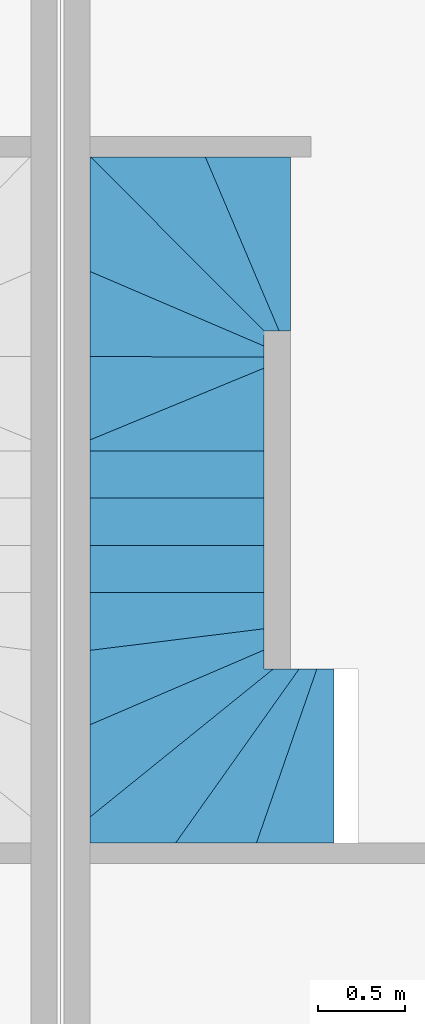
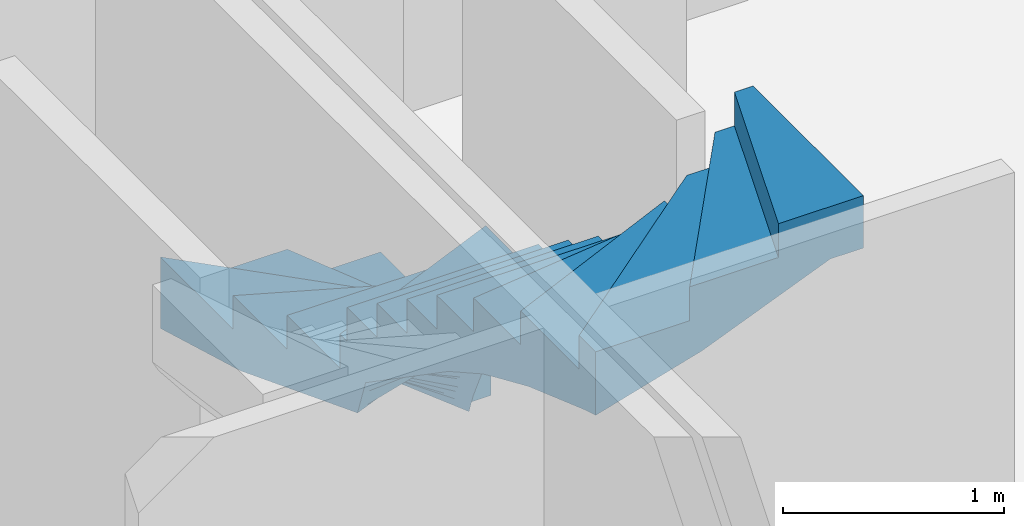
# One storey, part 6 of 8: 1 stair.
"""IFC2X3 building model written with IfcOpenShell, lengths in metres."""

from ifc_helpers import new_model, entity, si_unit, converted_unit, money_unit, direction, frame, origin_with_axes, place, context, subcontext, project, spatial, faceted_brep, source, transform, mapped, material, element, save


model = new_model("IFC2X3")

# Units and contexts
model_context = context("Model", 3, precision=1e-05, world=origin_with_axes(), true_north=direction((0.0, 1.0)))
body_context = subcontext(model_context, "Body", "Model", "MODEL_VIEW")
ifc_project = project(units=[si_unit("LENGTHUNIT", "METRE"), si_unit("AREAUNIT", "SQUARE_METRE"), si_unit("VOLUMEUNIT", "CUBIC_METRE"), converted_unit("PLANEANGLEUNIT", "DEGREE", entity("IfcPlaneAngleMeasure", 0.0174532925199), si_unit("PLANEANGLEUNIT", "RADIAN"), dimensions=[0, 0, 0, 0, 0, 0, 0]), si_unit("SOLIDANGLEUNIT", "STERADIAN"), money_unit("EUR"), si_unit("TIMEUNIT", "SECOND"), si_unit("MASSUNIT", "GRAM"), si_unit("THERMODYNAMICTEMPERATUREUNIT", "DEGREE_CELSIUS"), si_unit("LUMINOUSINTENSITYUNIT", "LUMEN")], contexts=[model_context])

# Site, building, storey
site_placement = place(None, origin_with_axes())
site = spatial("IfcSite", under=ifc_project, at=site_placement, Name="Gelände", CompositionType="ELEMENT")
building_placement = place(site_placement, origin_with_axes())
building = spatial("IfcBuilding", under=site, at=building_placement, Name="Gebäude", CompositionType="ELEMENT")
storey_placement = place(building_placement, origin_with_axes())
storey = spatial("IfcBuildingStorey", under=building, at=storey_placement, Name="Erdgeschoss", CompositionType="ELEMENT", Elevation=0.0)

# Stair
ifc_material = material(Name="Beton")
shared_shape = source(origin_with_axes(), body_context, "Body", "Brep", [
    faceted_brep([(0.0, 0.0, 0.0), (0.0, 0.0, 0.005), (-1.0, 0.0, 0.005), (-1.0, 0.0, 0.0), (0.0, 0.03966, 0.0), (0.0, 0.03966, 0.18667), (0.0, 0.0, 0.18667), (-1.0, 0.0, 0.18667), (-1.0, 0.0375, 0.18667), (-1.0, 0.0375, 0.0), (-1.0, 0.14947, 0.0), (0.0, 0.07931, 0.0), (0.0, 0.07931, 0.18667), (0.0, 0.11897, 0.18667), (0.0, 0.15862, 0.18667), (0.0, 0.19828, 0.18667), (0.0, 0.23793, 0.18667), (0.0, 0.27759, 0.18667), (0.0, 0.31724, 0.18667), (0.0, 0.3569, 0.18667), (0.0, 0.39655, 0.18667), (0.0, 0.43621, 0.18667), (0.0, 0.47586, 0.18667), (0.0, 0.48778, 0.18667), (-1.0, 0.06362, 0.18667), (-1.0, 0.06362, 0.0), (-1.0, 0.1125, 0.0), (0.0, 0.11897, 0.0), (0.0, 0.15862, 0.0), (0.0, 0.19828, 0.0), (0.0, 0.23793, 0.0), (0.0, 0.27759, 0.0), (0.0, 0.31724, 0.0), (0.0, 0.3569, 0.0), (0.0, 0.39655, 0.0), (0.0, 0.43621, 0.0), (0.0, 0.47586, 0.0), (0.0, 0.48778, 0.0), (0.0, 0.48778, 0.37333), (-1.0, 0.06362, 0.37333), (-1.0, 0.075, 0.37333), (-1.0, 0.075, 0.0), (-1.0, 0.1125, 0.37333), (-1.0, 0.14947, 0.37333), (-1.0613, 0.15, 0.0), (0.0, 0.51552, 0.0), (0.0, 0.51552, 0.37333), (0.0, 0.55517, 0.37333), (0.0, 0.5626, 0.37333), (0.0, 0.59483, 0.37333), (0.0, 0.63448, 0.37333), (0.0, 0.67414, 0.37333), (0.0, 0.71379, 0.37333), (0.0, 0.75345, 0.37333), (0.0, 0.7931, 0.37333), (0.0, 0.83276, 0.37333), (0.0, 0.87241, 0.37333), (0.0, 0.91207, 0.37333), (0.0, 0.95172, 0.37333), (0.0, 0.99138, 0.37333), (0.0, 1.03103, 0.37333), (0.0, 1.07069, 0.37333), (0.0, 1.11034, 0.37333), (0.0, 1.14594, 0.37333), (-1.0, 0.14947, 0.56), (-1.03959, 0.15, 0.56), (-1.03959, 0.15, 0.0), (0.0, 0.55517, 0.0), (0.0, 0.5626, 0.0), (0.0, 0.59483, 0.00912), (0.0, 0.63448, 0.02034), (0.0, 0.67414, 0.03155), (0.0, 0.71379, 0.04277), (0.0, 0.75345, 0.05399), (0.0, 0.7931, 0.06521), (0.0, 0.83276, 0.07643), (0.0, 0.87241, 0.08765), (0.0, 0.91207, 0.09887), (0.0, 0.95172, 0.11009), (0.0, 0.99138, 0.1213), (0.0, 1.03103, 0.13252), (0.0, 1.07069, 0.14374), (0.0, 1.11034, 0.15496), (0.0, 1.14594, 0.16503), (0.0, 1.14594, 0.56), (0.0, 1.15, 0.56), (-0.0398, 1.15, 0.56), (-0.0796, 1.15, 0.56), (-0.11939, 1.15, 0.56), (-0.15919, 1.15, 0.56), (-0.19899, 1.15, 0.56), (-0.23879, 1.15, 0.56), (-0.27859, 1.15, 0.56), (-0.31838, 1.15, 0.56), (-0.35818, 1.15, 0.56), (-0.39798, 1.15, 0.56), (-0.43778, 1.15, 0.56), (-0.47758, 1.15, 0.56), (-0.51737, 1.15, 0.56), (-0.55717, 1.15, 0.56), (-0.59697, 1.15, 0.56), (-0.63677, 1.15, 0.56), (-0.65732, 1.15, 0.56), (-1.08574, 0.15, 0.56), (-1.07918, 0.15, 0.56), (-1.0613, 0.15, 0.56), (-1.07918, 0.15, 0.05248), (-1.08574, 0.15, 0.0717), (-1.09962, 0.15, 0.11243), (-1.11878, 0.15, 0.15398), (0.0, 1.15, 0.16618), (-0.0398, 1.15, 0.17744), (-0.0796, 1.15, 0.1887), (-0.11939, 1.15, 0.19996), (-0.15919, 1.15, 0.21122), (-0.19899, 1.15, 0.22248), (-0.23879, 1.15, 0.23374), (-0.27859, 1.15, 0.245), (-0.31838, 1.15, 0.25625), (-0.35818, 1.15, 0.26751), (-0.39798, 1.15, 0.27877), (-0.43778, 1.15, 0.29003), (-0.47758, 1.15, 0.30129), (-0.51737, 1.15, 0.31255), (-0.55717, 1.15, 0.32381), (-0.59697, 1.15, 0.33507), (-0.63677, 1.15, 0.34633), (-0.65732, 1.15, 0.35214), (-0.65732, 1.15, 0.74667), (-1.08574, 0.15, 0.74667), (-1.14942, 0.15, 0.22044), (-1.15837, 0.15, 0.23985), (-1.19796, 0.15, 0.32571), (-1.21189, 0.15, 0.35593), (-0.67657, 1.15, 0.35759), (-0.67657, 1.15, 0.74667), (-0.71636, 1.15, 0.74667), (-0.72033, 1.15, 0.74667), (-0.75616, 1.15, 0.74667), (-0.79596, 1.15, 0.74667), (-0.83576, 1.15, 0.74667), (-0.87556, 1.15, 0.74667), (-0.91535, 1.15, 0.74667), (-0.95515, 1.15, 0.74667), (-0.99495, 1.15, 0.74667), (-1.03475, 1.15, 0.74667), (-1.07455, 1.15, 0.74667), (-1.11434, 1.15, 0.74667), (-1.14554, 1.15, 0.74667), (-1.14942, 0.15, 0.74667), (-1.11878, 0.15, 0.74667), (-1.09962, 0.15, 0.74667), (-0.71636, 1.15, 0.36885), (-0.72033, 1.15, 0.36997), (-0.75616, 1.15, 0.38381), (-0.79596, 1.15, 0.39918), (-0.83576, 1.15, 0.41456), (-0.87556, 1.15, 0.42993), (-0.91535, 1.15, 0.4453), (-0.95515, 1.15, 0.46067), (-0.99495, 1.15, 0.47605), (-1.03475, 1.15, 0.49142), (-1.07455, 1.15, 0.50679), (-1.11434, 1.15, 0.52217), (-1.14554, 1.15, 0.53422), (-1.14554, 1.15, 0.93333), (-1.14942, 0.15, 0.93333), (-1.15837, 0.15, 0.93333), (-1.19796, 0.15, 0.93333), (-1.21189, 0.15, 0.93333), (-1.23755, 0.15, 0.41158), (-1.27166, 0.15, 0.48556), (-1.27714, 0.15, 0.50173), (-1.15414, 1.15, 0.53754), (-1.15414, 1.15, 0.93333), (-1.19394, 1.15, 0.93333), (-1.23374, 1.15, 0.93333), (-1.27354, 1.15, 0.93333), (-1.31333, 1.15, 0.93333), (-1.35313, 1.15, 0.93333), (-1.39293, 1.15, 0.93333), (-1.43273, 1.15, 0.93333), (-1.47253, 1.15, 0.93333), (-1.51232, 1.15, 0.93333), (-1.55212, 1.15, 0.93333), (-1.59192, 1.15, 0.93333), (-1.62451, 1.15, 0.93333), (-1.21189, 0.15, 1.12), (-1.23755, 0.15, 1.12), (-1.19394, 1.15, 0.55291), (-1.23374, 1.15, 0.56829), (-1.27354, 1.15, 0.58366), (-1.31333, 1.15, 0.59903), (-1.35313, 1.15, 0.6144), (-1.39293, 1.15, 0.62978), (-1.43273, 1.15, 0.64515), (-1.47253, 1.15, 0.66052), (-1.51232, 1.15, 0.6759), (-1.55212, 1.15, 0.69127), (-1.59192, 1.15, 0.70664), (-1.62451, 1.15, 0.71923), (-1.62451, 1.15, 1.12), (-1.63172, 1.15, 1.12), (-1.67152, 1.15, 1.12), (-1.68892, 1.15, 1.12), (-1.68892, 0.15, 1.12), (-1.67306, 0.15, 1.12), (-1.63347, 0.15, 1.12), (-1.59388, 0.15, 1.12), (-1.55429, 0.15, 1.12), (-1.51469, 0.15, 1.12), (-1.4751, 0.15, 1.12), (-1.43551, 0.15, 1.12), (-1.39592, 0.15, 1.12), (-1.37187, 0.15, 1.12), (-1.35633, 0.15, 1.12), (-1.31673, 0.15, 1.12), (-1.27714, 0.15, 1.12), (-1.27166, 0.15, 1.12), (-1.31673, 0.15, 0.61852), (-1.35633, 0.15, 0.73532), (-1.63172, 1.15, 0.72201), (-1.67152, 1.15, 0.73739), (-1.68892, 1.15, 0.74411), (-1.68892, 1.15, 1.30667), (-1.68892, 0.15, 1.30667), (-1.67306, 0.15, 0.89903), (-1.68892, 0.15, 0.90523), (-1.63347, 0.15, 0.88353), (-1.59388, 0.15, 0.86804), (-1.55429, 0.15, 0.85255), (-1.51469, 0.15, 0.83706), (-1.4751, 0.15, 0.82156), (-1.43551, 0.15, 0.80607), (-1.39592, 0.15, 0.79058), (-1.37187, 0.15, 0.78117), (-1.71131, 1.15, 0.75276), (-1.71131, 1.15, 1.30667), (-1.75111, 1.15, 1.30667), (-1.78338, 1.15, 1.30667), (-1.79091, 1.15, 1.30667), (-1.83071, 1.15, 1.30667), (-1.85655, 1.15, 1.30667), (-1.87051, 1.15, 1.30667), (-1.9103, 1.15, 1.30667), (-1.9501, 1.15, 1.30667), (-1.95964, 1.15, 1.30667), (-1.95964, 0.15, 1.30667), (-1.9502, 0.15, 1.30667), (-1.91061, 0.15, 1.30667), (-1.87102, 0.15, 1.30667), (-1.83143, 0.15, 1.30667), (-1.79184, 0.15, 1.30667), (-1.78338, 0.15, 1.30667), (-1.75224, 0.15, 1.30667), (-1.71265, 0.15, 1.30667), (-1.71265, 0.15, 0.91452), (-1.83071, 1.15, 0.91776), (-1.79091, 1.15, 0.80242), (-1.78338, 1.15, 0.7806), (-1.75111, 1.15, 0.76813), (-1.85655, 1.15, 0.99265), (-1.87051, 1.15, 1.00227), (-1.9103, 1.15, 1.02971), (-1.9501, 1.15, 1.05715), (-1.95964, 1.15, 1.06373), (-1.95964, 1.15, 1.49333), (-1.95964, 0.15, 1.49333), (-1.9502, 0.15, 1.05723), (-1.95964, 0.15, 1.06373), (-1.91061, 0.15, 1.02993), (-1.87102, 0.15, 1.00263), (-1.83143, 0.15, 0.97533), (-1.79184, 0.15, 0.94803), (-1.78338, 0.15, 0.94219), (-1.75224, 0.15, 0.93001), (-1.9899, 1.15, 1.0846), (-1.9899, 1.15, 1.49333), (-2.0297, 1.15, 1.49333), (-2.06949, 1.15, 1.49333), (-2.10929, 1.15, 1.49333), (-2.14909, 1.15, 1.49333), (-2.18889, 1.15, 1.49333), (-2.22869, 1.15, 1.49333), (-2.23036, 1.15, 1.49333), (-2.23036, 0.15, 1.49333), (-2.22735, 0.15, 1.49333), (-2.18776, 0.15, 1.49333), (-2.14816, 0.15, 1.49333), (-2.10857, 0.15, 1.49333), (-2.06898, 0.15, 1.49333), (-2.02939, 0.15, 1.49333), (-1.9898, 0.15, 1.49333), (-1.9898, 0.15, 1.08452), (-2.0297, 1.15, 1.11204), (-2.06949, 1.15, 1.13948), (-2.10929, 1.15, 1.16692), (-2.14909, 1.15, 1.19436), (-2.18889, 1.15, 1.2218), (-2.22869, 1.15, 1.24924), (-2.23036, 1.15, 1.2504), (-2.23036, 1.15, 1.68), (-2.23036, 0.15, 1.68), (-2.22735, 0.15, 1.24832), (-2.23036, 0.15, 1.2504), (-2.18776, 0.15, 1.22102), (-2.14816, 0.15, 1.19372), (-2.10857, 0.15, 1.16642), (-2.06898, 0.15, 1.13912), (-2.02939, 0.15, 1.11182), (-2.26848, 1.15, 1.27669), (-2.26848, 1.15, 1.68), (-2.30828, 1.15, 1.68), (-2.34808, 1.15, 1.68), (-2.38788, 1.15, 1.68), (-2.42768, 1.15, 1.68), (-2.46747, 1.15, 1.68), (-2.50108, 1.15, 1.68), (-2.50108, 0.15, 1.68), (-2.4649, 0.15, 1.68), (-2.42531, 0.15, 1.68), (-2.38571, 0.15, 1.68), (-2.34612, 0.15, 1.68), (-2.30653, 0.15, 1.68), (-2.26694, 0.15, 1.68), (-2.26694, 0.15, 1.27562), (-2.30828, 1.15, 1.30413), (-2.34808, 1.15, 1.33157), (-2.38788, 1.15, 1.35901), (-2.42768, 1.15, 1.38645), (-2.46747, 1.15, 1.41389), (-2.50108, 1.15, 1.43706), (-2.50108, 1.15, 1.86667), (-2.50108, 0.15, 1.86667), (-2.4649, 0.15, 1.41212), (-2.50108, 0.15, 1.43706), (-2.42531, 0.15, 1.38482), (-2.38571, 0.15, 1.35752), (-2.34612, 0.15, 1.33022), (-2.30653, 0.15, 1.30292), (-2.50727, 1.15, 1.44134), (-2.50727, 1.15, 1.86667), (-2.54707, 1.15, 1.86667), (-2.58687, 1.15, 1.86667), (-2.60699, 1.15, 1.86667), (-2.62667, 1.15, 1.86667), (-2.66646, 1.15, 1.86667), (-2.70626, 1.15, 1.86667), (-2.74606, 1.15, 1.86667), (-2.78586, 1.15, 1.86667), (-2.82566, 1.15, 1.86667), (-2.83391, 1.15, 1.86667), (-2.70969, 0.15, 1.86667), (-2.70245, 0.15, 1.86667), (-2.66286, 0.15, 1.86667), (-2.62502, 0.15, 1.86667), (-2.62327, 0.15, 1.86667), (-2.58367, 0.15, 1.86667), (-2.54408, 0.15, 1.86667), (-2.50449, 0.15, 1.86667), (-2.50449, 0.15, 1.43942), (-2.54707, 1.15, 1.46878), (-2.58687, 1.15, 1.49622), (-2.60699, 1.15, 1.51009), (-2.62667, 1.15, 1.52113), (-2.66646, 1.15, 1.54345), (-2.70626, 1.15, 1.56577), (-2.74606, 1.15, 1.58809), (-2.78586, 1.15, 1.61041), (-2.82566, 1.15, 1.63273), (-2.83391, 1.15, 1.63736), (-2.83391, 1.15, 2.05333), (-2.70969, 0.15, 2.05333), (-2.70245, 0.15, 1.59181), (-2.70969, 0.15, 1.59829), (-2.66286, 0.15, 1.55638), (-2.62502, 0.15, 1.52253), (-2.62327, 0.15, 1.52131), (-2.58367, 0.15, 1.49401), (-2.54408, 0.15, 1.46672), (-2.74204, 0.15, 1.62724), (-2.86545, 1.15, 1.65505), (-2.86545, 1.15, 2.05333), (-2.90525, 1.15, 2.05333), (-2.9231, 1.15, 2.05333), (-2.94505, 1.15, 2.05333), (-2.98485, 1.15, 2.05333), (-3.02465, 1.15, 2.05333), (-3.06444, 1.15, 2.05333), (-3.10424, 1.15, 2.05333), (-3.14404, 1.15, 2.05333), (-3.18384, 1.15, 2.05333), (-3.22364, 1.15, 2.05333), (-3.26091, 1.15, 2.05333), (-2.83169, 0.15, 2.05333), (-2.82122, 0.15, 2.05333), (-2.78163, 0.15, 2.05333), (-2.74204, 0.15, 2.05333), (-2.78163, 0.15, 1.66266), (-2.90525, 1.15, 1.67737), (-2.9231, 1.15, 1.68738), (-2.94505, 1.15, 1.69698), (-2.98485, 1.15, 1.71438), (-3.02465, 1.15, 1.73177), (-3.06444, 1.15, 1.74917), (-3.10424, 1.15, 1.76657), (-3.14404, 1.15, 1.78397), (-3.18384, 1.15, 1.80137), (-3.22364, 1.15, 1.81876), (-3.26091, 1.15, 1.83506), (-3.26091, 1.15, 2.24), (-2.83169, 0.15, 2.24), (-2.82122, 0.15, 1.69809), (-2.83169, 0.15, 1.70745), (-2.86082, 0.15, 1.73352), (-2.86269, 0.15, 1.73519), (-2.90041, 0.15, 1.79291), (-2.94, 0.15, 1.85348), (-3.26343, 1.15, 1.83616), (-3.26343, 1.15, 2.24), (-3.30323, 1.15, 2.24), (-3.33429, 1.15, 2.24), (-3.34303, 1.15, 2.24), (-3.38283, 1.15, 2.24), (-3.42263, 1.15, 2.24), (-3.46242, 1.15, 2.24), (-3.50222, 1.15, 2.24), (-3.54202, 1.15, 2.24), (-3.58182, 1.15, 2.24), (-3.62162, 1.15, 2.24), (-3.66141, 1.15, 2.24), (-3.70121, 1.15, 2.24), (-3.74101, 1.15, 2.24), (-3.78081, 1.15, 2.24), (-3.79076, 1.15, 2.24), (-2.94, 0.09667, 2.24), (-2.94, 0.09828, 2.24), (-2.94, 0.11364, 2.24), (-2.94, 0.15, 2.24), (-2.90041, 0.15, 2.24), (-2.86269, 0.15, 2.24), (-2.86082, 0.15, 2.24), (-3.30323, 1.15, 1.85356), (-3.33429, 1.15, 1.86714), (-3.34303, 1.15, 1.87022), (-3.38283, 1.15, 1.88424), (-3.42263, 1.15, 1.89826), (-3.46242, 1.15, 1.91228), (-3.50222, 1.15, 1.9263), (-3.54202, 1.15, 1.94032), (-3.58182, 1.15, 1.95434), (-3.62162, 1.15, 1.96836), (-3.66141, 1.15, 1.98238), (-3.70121, 1.15, 1.9964), (-3.74101, 1.15, 2.01042), (-3.78081, 1.15, 2.02445), (-3.79076, 1.15, 2.02795), (-3.79076, 1.15, 2.42667), (-2.94, 0.09667, 2.42667), (-2.94, 0.09828, 1.93262), (-2.94, 0.09667, 1.93448), (-2.94, 0.11364, 1.90912), (-2.94, 0.07727, 1.95688), (-2.94, 0.04091, 1.99887), (-2.94, 0.00455, 2.04086), (-3.82061, 1.15, 2.03847), (-3.82061, 1.15, 2.42667), (-3.85201, 1.15, 2.42667), (-3.8604, 1.15, 2.42667), (-3.9002, 1.15, 2.42667), (-3.94, 1.15, 2.42667), (-3.94, 1.11111, 2.42667), (-3.94, 1.07222, 2.42667), (-3.94, 1.03333, 2.42667), (-3.94, 0.99444, 2.42667), (-3.94, 0.95556, 2.42667), (-3.94, 0.91667, 2.42667), (-3.94, 0.87778, 2.42667), (-3.94, 0.83889, 2.42667), (-3.94, 0.8, 2.42667), (-3.94, 0.76111, 2.42667), (-3.94, 0.72222, 2.42667), (-3.94, 0.68333, 2.42667), (-3.94, 0.65858, 2.42667), (-2.94, -0.05125, 2.42667), (-2.94, -0.03182, 2.42667), (-2.94, 0.00455, 2.42667), (-2.94, 0.04091, 2.42667), (-2.94, 0.07727, 2.42667), (-3.85201, 1.15, 2.04953), (-3.8604, 1.15, 2.05198), (-3.9002, 1.15, 2.06357), (-3.94, 1.15, 2.07517), (-3.94, 1.11111, 2.0865), (-3.94, 1.07222, 2.09783), (-3.94, 1.03333, 2.10916), (-3.94, 0.99444, 2.12049), (-3.94, 0.95556, 2.13182), (-3.94, 0.91667, 2.14315), (-3.94, 0.87778, 2.15448), (-3.94, 0.83889, 2.16581), (-3.94, 0.8, 2.17715), (-3.94, 0.76111, 2.18848), (-3.94, 0.72222, 2.19981), (-3.94, 0.68333, 2.21114), (-3.94, 0.65858, 2.21835), (-3.94, 0.65858, 2.61333), (-2.94, -0.05125, 2.61333), (-2.94, -0.03182, 2.08286), (-2.94, -0.05125, 2.1053), (-2.94, -0.05738, 2.11237), (-2.94, -0.06818, 2.12601), (-2.94, -0.10455, 2.1719), (-2.94, -0.14091, 2.21779), (-3.94, 0.64444, 2.22247), (-3.94, 0.64444, 2.61333), (-3.94, 0.60556, 2.61333), (-3.94, 0.59315, 2.61333), (-3.94, 0.56667, 2.61333), (-3.94, 0.52778, 2.61333), (-3.94, 0.48889, 2.61333), (-3.94, 0.45, 2.61333), (-3.94, 0.41111, 2.61333), (-3.94, 0.37222, 2.61333), (-3.94, 0.33333, 2.61333), (-3.94, 0.29444, 2.61333), (-3.94, 0.25556, 2.61333), (-3.94, 0.21667, 2.61333), (-3.94, 0.19426, 2.61333), (-2.94, -0.15282, 2.61333), (-2.94, -0.14091, 2.61333), (-2.94, -0.10455, 2.61333), (-2.94, -0.06818, 2.61333), (-2.94, -0.05738, 2.61333), (-3.94, 0.60556, 2.2338), (-3.94, 0.59315, 2.23742), (-3.94, 0.56667, 2.2482), (-3.94, 0.52778, 2.26404), (-3.94, 0.48889, 2.27988), (-3.94, 0.45, 2.29572), (-3.94, 0.41111, 2.31156), (-3.94, 0.37222, 2.3274), (-3.94, 0.33333, 2.34324), (-3.94, 0.29444, 2.35907), (-3.94, 0.25556, 2.37491), (-3.94, 0.21667, 2.39075), (-3.94, 0.19426, 2.39988), (-3.94, 0.19426, 2.8), (-2.94, -0.15282, 2.8), (-2.94, -0.15282, 2.23282), (-2.94, -0.17727, 2.26368), (-2.94, -0.21364, 2.30957), (-2.94, -0.21869, 2.31595), (-2.94, -0.25, 2.37348), (-3.94, 0.17778, 2.40659), (-3.94, 0.17778, 2.8), (-3.94, 0.13889, 2.8), (-3.94, 0.1, 2.8), (-3.94, 0.06111, 2.8), (-3.94, 0.02222, 2.8), (-3.94, -0.01667, 2.8), (-3.94, -0.05556, 2.8), (-3.94, -0.07611, 2.8), (-3.94, -0.09444, 2.8), (-3.94, -0.13333, 2.8), (-3.94, -0.17222, 2.8), (-3.94, -0.21111, 2.8), (-3.94, -0.25, 2.8), (-2.94, -0.25, 2.8), (-2.94, -0.21869, 2.8), (-2.94, -0.21364, 2.8), (-2.94, -0.17727, 2.8), (-3.94, 0.13889, 2.42243), (-3.94, 0.1, 2.43827), (-3.94, 0.06111, 2.45411), (-3.94, 0.02222, 2.46995), (-3.94, -0.01667, 2.48579), (-3.94, -0.05556, 2.50163), (-3.94, -0.07611, 2.51), (-3.94, -0.09444, 2.51), (-3.94, -0.13333, 2.51), (-3.94, -0.17222, 2.51), (-3.94, -0.21111, 2.51), (-3.94, -0.25, 2.51)], [[[0, 1, 2, 3]], [[0, 4, 5, 6, 1]], [[1, 6, 7, 2]], [[3, 2, 7, 8, 9]], [[3, 9, 0]], [[10, 4, 0]], [[4, 11, 12, 5]], [[6, 5, 12, 13, 14, 15, 16, 17, 18, 19, 20, 21, 22, 23, 24, 8, 7]], [[9, 8, 24, 25]], [[9, 25, 0]], [[10, 11, 4]], [[26, 10, 0]], [[11, 27, 13, 12]], [[27, 28, 14, 13]], [[28, 29, 15, 14]], [[29, 30, 16, 15]], [[30, 31, 17, 16]], [[31, 32, 18, 17]], [[32, 33, 19, 18]], [[33, 34, 20, 19]], [[34, 35, 21, 20]], [[35, 36, 22, 21]], [[36, 37, 23, 22]], [[23, 38, 39, 24]], [[25, 24, 39, 40, 41]], [[25, 41, 0]], [[10, 27, 11]], [[26, 42, 43, 10]], [[41, 26, 0]], [[10, 28, 27]], [[44, 29, 28]], [[44, 30, 29]], [[44, 31, 30]], [[44, 32, 31]], [[44, 33, 32]], [[44, 34, 33]], [[44, 35, 34]], [[44, 36, 35]], [[44, 37, 36]], [[37, 45, 46, 38, 23]], [[38, 46, 47, 48, 49, 50, 51, 52, 53, 54, 55, 56, 57, 58, 59, 60, 61, 62, 63, 43, 42, 40, 39]], [[41, 40, 42, 26]], [[10, 43, 64, 65, 66]], [[10, 66, 28]], [[66, 44, 28]], [[44, 45, 37]], [[45, 67, 47, 46]], [[67, 68, 48, 47]], [[68, 69, 49, 48]], [[69, 70, 50, 49]], [[70, 71, 51, 50]], [[71, 72, 52, 51]], [[72, 73, 53, 52]], [[73, 74, 54, 53]], [[74, 75, 55, 54]], [[75, 76, 56, 55]], [[76, 77, 57, 56]], [[77, 78, 58, 57]], [[78, 79, 59, 58]], [[79, 80, 60, 59]], [[80, 81, 61, 60]], [[81, 82, 62, 61]], [[82, 83, 63, 62]], [[63, 84, 64, 43]], [[84, 85, 86, 87, 88, 89, 90, 91, 92, 93, 94, 95, 96, 97, 98, 99, 100, 101, 102, 103, 104, 105, 65, 64]], [[66, 65, 105, 44]], [[44, 67, 45]], [[44, 68, 67]], [[44, 69, 68]], [[44, 70, 69]], [[44, 71, 70]], [[106, 72, 71]], [[106, 73, 72]], [[106, 74, 73]], [[107, 75, 74]], [[107, 76, 75]], [[108, 77, 76]], [[108, 78, 77]], [[108, 79, 78]], [[108, 80, 79]], [[109, 81, 80]], [[109, 82, 81]], [[109, 83, 82]], [[83, 110, 85, 84, 63]], [[110, 111, 86, 85]], [[111, 112, 87, 86]], [[112, 113, 88, 87]], [[113, 114, 89, 88]], [[114, 115, 90, 89]], [[115, 116, 91, 90]], [[116, 117, 92, 91]], [[117, 118, 93, 92]], [[118, 119, 94, 93]], [[119, 120, 95, 94]], [[120, 121, 96, 95]], [[121, 122, 97, 96]], [[122, 123, 98, 97]], [[123, 124, 99, 98]], [[124, 125, 100, 99]], [[125, 126, 101, 100]], [[126, 127, 102, 101]], [[102, 128, 129, 103]], [[106, 104, 103, 107]], [[44, 105, 104, 106]], [[44, 106, 71]], [[106, 107, 74]], [[107, 108, 76]], [[108, 109, 80]], [[109, 110, 83]], [[109, 111, 110]], [[109, 112, 111]], [[130, 113, 112]], [[130, 114, 113]], [[130, 115, 114]], [[130, 116, 115]], [[131, 117, 116]], [[131, 118, 117]], [[131, 119, 118]], [[131, 120, 119]], [[132, 121, 120]], [[132, 122, 121]], [[132, 123, 122]], [[132, 124, 123]], [[132, 125, 124]], [[132, 126, 125]], [[133, 127, 126]], [[127, 134, 135, 128, 102]], [[128, 135, 136, 137, 138, 139, 140, 141, 142, 143, 144, 145, 146, 147, 148, 149, 150, 151, 129]], [[107, 103, 129, 151, 108]], [[108, 151, 150, 109]], [[109, 130, 112]], [[130, 131, 116]], [[131, 132, 120]], [[132, 133, 126]], [[133, 134, 127]], [[134, 152, 136, 135]], [[152, 153, 137, 136]], [[153, 154, 138, 137]], [[154, 155, 139, 138]], [[155, 156, 140, 139]], [[156, 157, 141, 140]], [[157, 158, 142, 141]], [[158, 159, 143, 142]], [[159, 160, 144, 143]], [[160, 161, 145, 144]], [[161, 162, 146, 145]], [[162, 163, 147, 146]], [[163, 164, 148, 147]], [[148, 165, 166, 149]], [[109, 150, 149, 130]], [[130, 149, 166, 167, 131]], [[131, 167, 168, 132]], [[132, 168, 169, 133]], [[133, 152, 134]], [[133, 153, 152]], [[133, 154, 153]], [[170, 155, 154]], [[170, 156, 155]], [[170, 157, 156]], [[170, 158, 157]], [[171, 159, 158]], [[171, 160, 159]], [[171, 161, 160]], [[172, 162, 161]], [[172, 163, 162]], [[172, 164, 163]], [[164, 173, 174, 165, 148]], [[165, 174, 175, 176, 177, 178, 179, 180, 181, 182, 183, 184, 185, 186, 169, 168, 167, 166]], [[133, 169, 187, 188, 170]], [[133, 170, 154]], [[170, 171, 158]], [[171, 172, 161]], [[172, 173, 164]], [[173, 189, 175, 174]], [[189, 190, 176, 175]], [[190, 191, 177, 176]], [[191, 192, 178, 177]], [[192, 193, 179, 178]], [[193, 194, 180, 179]], [[194, 195, 181, 180]], [[195, 196, 182, 181]], [[196, 197, 183, 182]], [[197, 198, 184, 183]], [[198, 199, 185, 184]], [[199, 200, 186, 185]], [[186, 201, 187, 169]], [[201, 202, 203, 204, 205, 206, 207, 208, 209, 210, 211, 212, 213, 214, 215, 216, 217, 218, 188, 187]], [[170, 188, 218, 171]], [[171, 218, 217, 172]], [[172, 189, 173]], [[219, 190, 189]], [[219, 191, 190]], [[219, 192, 191]], [[219, 193, 192]], [[219, 194, 193]], [[219, 195, 194]], [[219, 196, 195]], [[219, 197, 196]], [[220, 198, 197]], [[220, 199, 198]], [[220, 200, 199]], [[200, 221, 202, 201, 186]], [[221, 222, 203, 202]], [[222, 223, 204, 203]], [[204, 224, 225, 205]], [[226, 206, 205, 227]], [[228, 207, 206, 226]], [[229, 208, 207, 228]], [[230, 209, 208, 229]], [[231, 210, 209, 230]], [[232, 211, 210, 231]], [[233, 212, 211, 232]], [[234, 213, 212, 233]], [[235, 214, 213, 234]], [[220, 215, 214, 235]], [[219, 216, 215, 220]], [[172, 217, 216, 219]], [[172, 219, 189]], [[219, 220, 197]], [[220, 221, 200]], [[220, 222, 221]], [[220, 223, 222]], [[223, 236, 237, 224, 204]], [[224, 237, 238, 239, 240, 241, 242, 243, 244, 245, 246, 247, 248, 249, 250, 251, 252, 253, 254, 255, 225]], [[227, 205, 225, 255, 256]], [[226, 227, 257]], [[228, 226, 257]], [[229, 228, 257]], [[230, 229, 257]], [[231, 230, 258]], [[232, 231, 258]], [[233, 232, 258]], [[234, 233, 258]], [[235, 234, 259]], [[220, 235, 236]], [[220, 236, 223]], [[236, 260, 238, 237]], [[260, 259, 239, 238]], [[259, 258, 240, 239]], [[258, 257, 241, 240]], [[257, 261, 242, 241]], [[261, 262, 243, 242]], [[262, 263, 244, 243]], [[263, 264, 245, 244]], [[264, 265, 246, 245]], [[246, 266, 267, 247]], [[268, 248, 247, 269]], [[270, 249, 248, 268]], [[271, 250, 249, 270]], [[272, 251, 250, 271]], [[273, 252, 251, 272]], [[274, 253, 252, 273]], [[275, 254, 253, 274]], [[256, 255, 254, 275]], [[227, 256, 257]], [[230, 257, 258]], [[234, 258, 259]], [[235, 259, 260]], [[235, 260, 236]], [[273, 261, 257]], [[271, 262, 261]], [[271, 263, 262]], [[270, 264, 263]], [[268, 265, 264]], [[265, 276, 277, 266, 246]], [[266, 277, 278, 279, 280, 281, 282, 283, 284, 285, 286, 287, 288, 289, 290, 291, 292, 267]], [[269, 247, 267, 292, 293]], [[268, 269, 265]], [[270, 268, 264]], [[271, 270, 263]], [[272, 271, 261]], [[273, 272, 261]], [[274, 273, 257]], [[275, 274, 257]], [[256, 275, 257]], [[293, 276, 265]], [[276, 294, 278, 277]], [[294, 295, 279, 278]], [[295, 296, 280, 279]], [[296, 297, 281, 280]], [[297, 298, 282, 281]], [[298, 299, 283, 282]], [[299, 300, 284, 283]], [[284, 301, 302, 285]], [[303, 286, 285, 304]], [[305, 287, 286, 303]], [[306, 288, 287, 305]], [[307, 289, 288, 306]], [[308, 290, 289, 307]], [[309, 291, 290, 308]], [[293, 292, 291, 309]], [[269, 293, 265]], [[293, 309, 276]], [[309, 294, 276]], [[308, 295, 294]], [[307, 296, 295]], [[306, 297, 296]], [[305, 298, 297]], [[303, 299, 298]], [[304, 300, 299]], [[300, 310, 311, 301, 284]], [[301, 311, 312, 313, 314, 315, 316, 317, 318, 319, 320, 321, 322, 323, 324, 302]], [[304, 285, 302, 324, 325]], [[303, 304, 299]], [[305, 303, 298]], [[306, 305, 297]], [[307, 306, 296]], [[308, 307, 295]], [[309, 308, 294]], [[304, 325, 300]], [[325, 310, 300]], [[310, 326, 312, 311]], [[326, 327, 313, 312]], [[327, 328, 314, 313]], [[328, 329, 315, 314]], [[329, 330, 316, 315]], [[330, 331, 317, 316]], [[317, 332, 333, 318]], [[334, 319, 318, 335]], [[336, 320, 319, 334]], [[337, 321, 320, 336]], [[338, 322, 321, 337]], [[339, 323, 322, 338]], [[325, 324, 323, 339]], [[325, 339, 310]], [[339, 326, 310]], [[338, 327, 326]], [[337, 328, 327]], [[336, 329, 328]], [[334, 330, 329]], [[335, 331, 330]], [[331, 340, 341, 332, 317]], [[332, 341, 342, 343, 344, 345, 346, 347, 348, 349, 350, 351, 352, 353, 354, 355, 356, 357, 358, 359, 333]], [[335, 318, 333, 359, 360]], [[334, 335, 330]], [[336, 334, 329]], [[337, 336, 328]], [[338, 337, 327]], [[339, 338, 326]], [[335, 360, 331]], [[360, 340, 331]], [[340, 361, 342, 341]], [[361, 362, 343, 342]], [[362, 363, 344, 343]], [[363, 364, 345, 344]], [[364, 365, 346, 345]], [[365, 366, 347, 346]], [[366, 367, 348, 347]], [[367, 368, 349, 348]], [[368, 369, 350, 349]], [[369, 370, 351, 350]], [[351, 371, 372, 352]], [[373, 353, 352, 374]], [[375, 354, 353, 373]], [[376, 355, 354, 375]], [[377, 356, 355, 376]], [[378, 357, 356, 377]], [[379, 358, 357, 378]], [[360, 359, 358, 379]], [[360, 379, 340]], [[379, 361, 340]], [[378, 362, 361]], [[378, 363, 362]], [[377, 364, 363]], [[376, 365, 364]], [[375, 366, 365]], [[373, 367, 366]], [[374, 368, 367]], [[380, 369, 368]], [[380, 370, 369]], [[370, 381, 382, 371, 351]], [[371, 382, 383, 384, 385, 386, 387, 388, 389, 390, 391, 392, 393, 394, 395, 396, 397, 372]], [[374, 352, 372, 397, 380]], [[373, 374, 367]], [[375, 373, 366]], [[376, 375, 365]], [[377, 376, 364]], [[378, 377, 363]], [[379, 378, 361]], [[374, 380, 368]], [[380, 398, 370]], [[398, 381, 370]], [[381, 399, 383, 382]], [[399, 400, 384, 383]], [[400, 401, 385, 384]], [[401, 402, 386, 385]], [[402, 403, 387, 386]], [[403, 404, 388, 387]], [[404, 405, 389, 388]], [[405, 406, 390, 389]], [[406, 407, 391, 390]], [[407, 408, 392, 391]], [[408, 409, 393, 392]], [[393, 410, 411, 394]], [[412, 395, 394, 413]], [[398, 396, 395, 412]], [[380, 397, 396, 398]], [[398, 399, 381]], [[412, 400, 399]], [[412, 401, 400]], [[413, 402, 401]], [[414, 403, 402]], [[415, 404, 403]], [[415, 405, 404]], [[416, 406, 405]], [[416, 407, 406]], [[416, 408, 407]], [[417, 409, 408]], [[409, 418, 419, 410, 393]], [[410, 419, 420, 421, 422, 423, 424, 425, 426, 427, 428, 429, 430, 431, 432, 433, 434, 435, 436, 437, 438, 439, 440, 441, 411]], [[413, 394, 411, 441, 414]], [[412, 413, 401]], [[398, 412, 399]], [[413, 414, 402]], [[414, 415, 403]], [[415, 416, 405]], [[416, 417, 408]], [[417, 418, 409]], [[418, 442, 420, 419]], [[442, 443, 421, 420]], [[443, 444, 422, 421]], [[444, 445, 423, 422]], [[445, 446, 424, 423]], [[446, 447, 425, 424]], [[447, 448, 426, 425]], [[448, 449, 427, 426]], [[449, 450, 428, 427]], [[450, 451, 429, 428]], [[451, 452, 430, 429]], [[452, 453, 431, 430]], [[453, 454, 432, 431]], [[454, 455, 433, 432]], [[455, 456, 434, 433]], [[434, 457, 458, 435]], [[459, 436, 435, 460]], [[461, 437, 436, 459]], [[417, 438, 437, 461]], [[416, 439, 438, 417]], [[415, 440, 439, 416]], [[414, 441, 440, 415]], [[417, 442, 418]], [[417, 443, 442]], [[417, 444, 443]], [[417, 445, 444]], [[461, 446, 445]], [[461, 447, 446]], [[461, 448, 447]], [[459, 449, 448]], [[462, 450, 449]], [[462, 451, 450]], [[462, 452, 451]], [[463, 453, 452]], [[463, 454, 453]], [[463, 455, 454]], [[464, 456, 455]], [[456, 465, 466, 457, 434]], [[457, 466, 467, 468, 469, 470, 471, 472, 473, 474, 475, 476, 477, 478, 479, 480, 481, 482, 483, 484, 485, 486, 487, 488, 458]], [[460, 435, 458, 488, 462]], [[459, 460, 449]], [[461, 459, 448]], [[417, 461, 445]], [[460, 462, 449]], [[462, 463, 452]], [[463, 464, 455]], [[464, 465, 456]], [[465, 489, 467, 466]], [[489, 490, 468, 467]], [[490, 491, 469, 468]], [[491, 492, 470, 469]], [[492, 493, 471, 470]], [[493, 494, 472, 471]], [[494, 495, 473, 472]], [[495, 496, 474, 473]], [[496, 497, 475, 474]], [[497, 498, 476, 475]], [[498, 499, 477, 476]], [[499, 500, 478, 477]], [[500, 501, 479, 478]], [[501, 502, 480, 479]], [[502, 503, 481, 480]], [[503, 504, 482, 481]], [[504, 505, 483, 482]], [[483, 506, 507, 484]], [[508, 485, 484, 509]], [[464, 486, 485, 508]], [[463, 487, 486, 464]], [[462, 488, 487, 463]], [[464, 489, 465]], [[464, 490, 489]], [[464, 491, 490]], [[508, 492, 491]], [[508, 493, 492]], [[508, 494, 493]], [[509, 495, 494]], [[510, 496, 495]], [[511, 497, 496]], [[511, 498, 497]], [[511, 499, 498]], [[512, 500, 499]], [[512, 501, 500]], [[512, 502, 501]], [[512, 503, 502]], [[513, 504, 503]], [[513, 505, 504]], [[505, 514, 515, 506, 483]], [[506, 515, 516, 517, 518, 519, 520, 521, 522, 523, 524, 525, 526, 527, 528, 529, 530, 531, 532, 533, 507]], [[509, 484, 507, 533, 510]], [[508, 509, 494]], [[464, 508, 491]], [[509, 510, 495]], [[510, 511, 496]], [[511, 512, 499]], [[512, 513, 503]], [[513, 514, 505]], [[514, 534, 516, 515]], [[534, 535, 517, 516]], [[535, 536, 518, 517]], [[536, 537, 519, 518]], [[537, 538, 520, 519]], [[538, 539, 521, 520]], [[539, 540, 522, 521]], [[540, 541, 523, 522]], [[541, 542, 524, 523]], [[542, 543, 525, 524]], [[543, 544, 526, 525]], [[544, 545, 527, 526]], [[545, 546, 528, 527]], [[528, 547, 548, 529]], [[513, 530, 529, 549]], [[512, 531, 530, 513]], [[511, 532, 531, 512]], [[510, 533, 532, 511]], [[513, 549, 514]], [[549, 534, 514]], [[549, 535, 534]], [[549, 536, 535]], [[550, 537, 536]], [[550, 538, 537]], [[551, 539, 538]], [[551, 540, 539]], [[552, 541, 540]], [[552, 542, 541]], [[553, 543, 542]], [[553, 544, 543]], [[553, 545, 544]], [[553, 546, 545]], [[546, 554, 555, 547, 528]], [[547, 555, 556, 557, 558, 559, 560, 561, 562, 563, 564, 565, 566, 567, 568, 569, 570, 571, 548]], [[549, 529, 548, 571, 550]], [[549, 550, 536]], [[550, 551, 538]], [[551, 552, 540]], [[552, 553, 542]], [[553, 554, 546]], [[554, 572, 556, 555]], [[572, 573, 557, 556]], [[573, 574, 558, 557]], [[574, 575, 559, 558]], [[575, 576, 560, 559]], [[576, 577, 561, 560]], [[577, 578, 562, 561]], [[578, 579, 563, 562]], [[579, 580, 564, 563]], [[580, 581, 565, 564]], [[581, 582, 566, 565]], [[582, 583, 567, 566]], [[553, 568, 567, 583]], [[552, 569, 568, 553]], [[551, 570, 569, 552]], [[550, 571, 570, 551]], [[553, 572, 554]], [[553, 573, 572]], [[553, 574, 573]], [[553, 575, 574]], [[553, 576, 575]], [[553, 577, 576]], [[553, 578, 577]], [[553, 579, 578]], [[553, 580, 579]], [[553, 581, 580]], [[553, 582, 581]], [[553, 583, 582]]]),
])
stair_placement = place(storey_placement, frame((33.6939410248, 0.987794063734, 0.0), z_axis=(0.0, 0.0, 1.0), x_axis=(0.0, 1.0, 0.0)))
element("IfcStair", 1, at=stair_placement, inside=storey, material=ifc_material, Name="Treppe D/ (EG-DG)", ShapeType="NOTDEFINED", context=body_context, shape_type="MappedRepresentation", body=[
    mapped(shared_shape, transform((0.0, 0.0, 0.0))),
])

save(model, "model.ifc")
